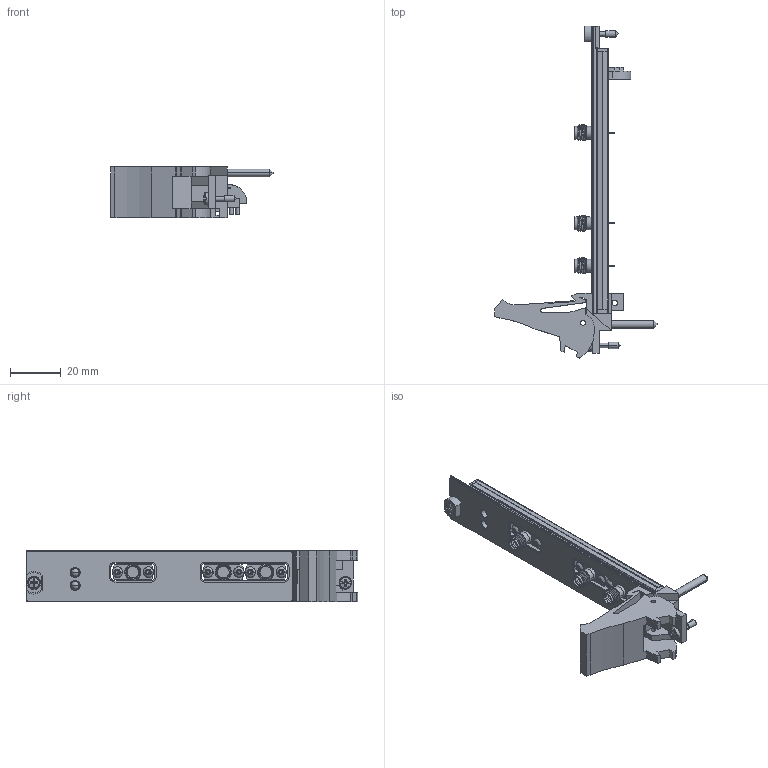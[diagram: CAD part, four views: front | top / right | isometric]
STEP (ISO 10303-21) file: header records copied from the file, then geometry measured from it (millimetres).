
FILE_DESCRIPTION((''),'2;1');
FILE_NAME('CU_PXI-5652','2010-01-19T',('jjorden'),(''),'PRO/ENGINEER BY PARAMETRIC TECHNOLOGY CORPORATION, 2006080','PRO/ENGINEER BY PARAMETRIC TECHNOLOGY CORPORATION, 2006080','');
FILE_SCHEMA(('CONFIG_CONTROL_DESIGN'));
Length unit declared in the file: inch
Products named in the file (1): CU_PXI-5652
Bounding box: 63.73 x 130.5 x 20.29 mm (x, y, z)
Volume: 15757.3 mm3; surface area: 17554.4 mm2
Topology: 6 solids, 6 shells, 1023 faces, 2766 edges, 1788 vertices
Faces by surface type: cylinder 375, plane 341, bspline 153, cone 58, extrusion 48, torus 28, sphere 20
Entity records: 90981 total; most frequent: CARTESIAN_POINT 67081, ORIENTED_EDGE 5492, DIRECTION 4100, EDGE_CURVE 2746, VERTEX_POINT 1788, AXIS2_PLACEMENT_3D 1428, VECTOR 1244, LINE 1196
